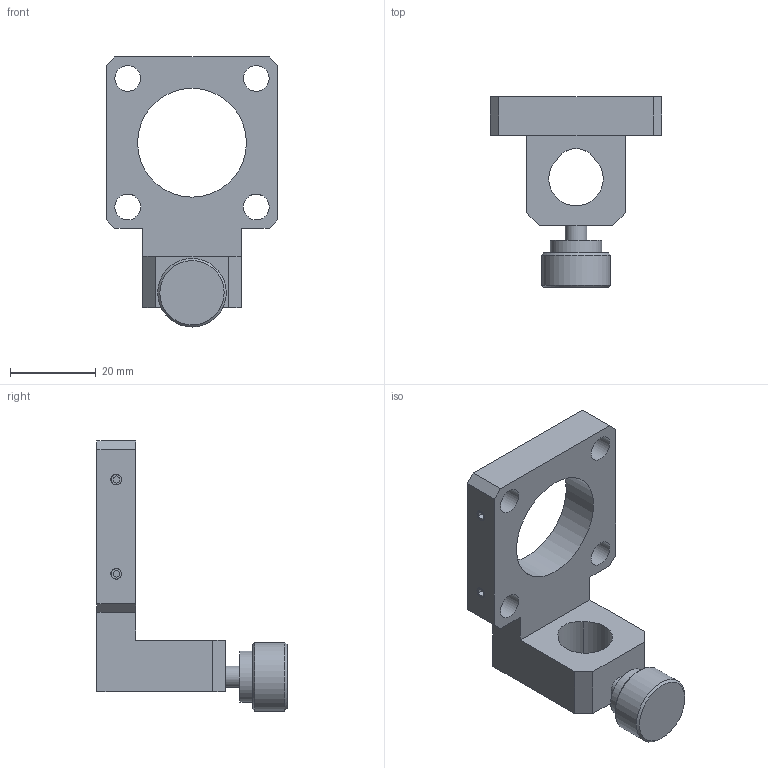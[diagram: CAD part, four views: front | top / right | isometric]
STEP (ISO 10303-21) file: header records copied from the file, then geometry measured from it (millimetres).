
FILE_DESCRIPTION(/* description */ (''),/* implementation_level */ '2;1');
FILE_NAME(/* name */ 'Y:\2_OpticalHard\08_Cage Systems\C30ｼﾘｰｽﾞ\C30-RMP-12.7-10\20180820_中間ﾌｧｲﾙ\C30-RMP-12.7-10.stp',/* time_stamp */ '2018-08-20T14:08:00+09:00',/* author */ ('e.nonaka'),/* organization */ (''),/* preprocessor_version */ 'ST-DEVELOPER v17',/* originating_system */ 'Autodesk Inventor 2018',/* authorisation */ '');
FILE_SCHEMA (('AUTOMOTIVE_DESIGN { 1 0 10303 214 3 1 1 }'));
Length unit declared in the file: millimetre
Products named in the file (1): C30RMP12.710-M02-18001-TS01
Bounding box: 40 x 44.35 x 63 mm (x, y, z)
Volume: 18549 mm3; surface area: 8728.5 mm2
Topology: 1 solids, 1 shells, 92 faces, 243 edges, 167 vertices
Faces by surface type: plane 58, cylinder 20, cone 14
Full cylindrical faces by diameter (mm): 2.5 x8, 5 x1, 6 x4, 12 x1, 16 x1, 25.4 x1
Entity records: 3215 total; most frequent: CARTESIAN_POINT 706, DIRECTION 490, ORIENTED_EDGE 482, EDGE_CURVE 241, VERTEX_POINT 169, AXIS2_PLACEMENT_3D 167, LINE 156, VECTOR 156
